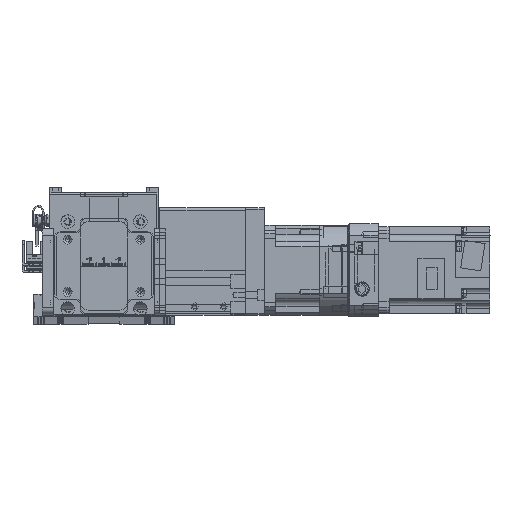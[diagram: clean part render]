
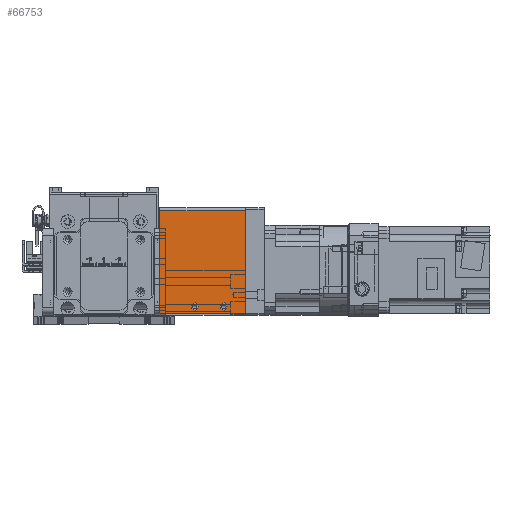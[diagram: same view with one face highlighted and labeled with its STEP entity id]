
A CAD part, top view. The second image highlights one B-rep face of the part: STEP entity #66753.
In plain terms, the highlighted planar face has unit normal (0, 0, 1) as drawn and (0, 0, -1) by its records, which use the part's own axes.
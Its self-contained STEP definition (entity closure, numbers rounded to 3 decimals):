
#3438=FACE_BOUND('',#10933,.T.);
#3439=FACE_BOUND('',#10934,.T.);
#6733=FACE_OUTER_BOUND('',#10932,.T.);
#10932=EDGE_LOOP('',(#59370,#59371,#59372,#59373,#59374,#59375));
#10933=EDGE_LOOP('',(#59376));
#10934=EDGE_LOOP('',(#59377));
#13957=CIRCLE('',#74006,2.5);
#13961=CIRCLE('',#74012,2.5);
#13970=CIRCLE('',#74027,1.);
#13972=CIRCLE('',#74031,1.);
#19698=LINE('',#116701,#25662);
#19712=LINE('',#116733,#25676);
#19715=LINE('',#116747,#25679);
#19718=LINE('',#116752,#25682);
#25662=VECTOR('',#92378,10.);
#25676=VECTOR('',#92402,10.);
#25679=VECTOR('',#92417,10.);
#25682=VECTOR('',#92422,10.);
#31903=VERTEX_POINT('',#116667);
#31907=VERTEX_POINT('',#116679);
#31915=VERTEX_POINT('',#116698);
#31916=VERTEX_POINT('',#116700);
#31928=VERTEX_POINT('',#116730);
#31929=VERTEX_POINT('',#116732);
#31932=VERTEX_POINT('',#116740);
#31934=VERTEX_POINT('',#116746);
#41153=EDGE_CURVE('',#31903,#31903,#13957,.T.);
#41159=EDGE_CURVE('',#31907,#31907,#13961,.T.);
#41168=EDGE_CURVE('',#31915,#31916,#19698,.T.);
#41184=EDGE_CURVE('',#31928,#31929,#19712,.T.);
#41188=EDGE_CURVE('',#31916,#31932,#13970,.T.);
#41191=EDGE_CURVE('',#31932,#31934,#19715,.T.);
#41194=EDGE_CURVE('',#31929,#31915,#19718,.T.);
#41195=EDGE_CURVE('',#31934,#31928,#13972,.T.);
#59370=ORIENTED_EDGE('',*,*,#41188,.F.);
#59371=ORIENTED_EDGE('',*,*,#41168,.F.);
#59372=ORIENTED_EDGE('',*,*,#41194,.F.);
#59373=ORIENTED_EDGE('',*,*,#41184,.F.);
#59374=ORIENTED_EDGE('',*,*,#41195,.F.);
#59375=ORIENTED_EDGE('',*,*,#41191,.F.);
#59376=ORIENTED_EDGE('',*,*,#41153,.T.);
#59377=ORIENTED_EDGE('',*,*,#41159,.T.);
#63331=PLANE('',#74030);
#66753=ADVANCED_FACE('',(#6733,#3438,#3439),#63331,.T.);
#74006=AXIS2_PLACEMENT_3D('',#116669,#92346,#92347);
#74012=AXIS2_PLACEMENT_3D('',#116681,#92360,#92361);
#74027=AXIS2_PLACEMENT_3D('',#116741,#92410,#92411);
#74030=AXIS2_PLACEMENT_3D('',#116751,#92420,#92421);
#74031=AXIS2_PLACEMENT_3D('',#116753,#92423,#92424);
#92346=DIRECTION('center_axis',(0.,0.,1.));
#92347=DIRECTION('ref_axis',(1.,0.,0.));
#92360=DIRECTION('center_axis',(0.,0.,1.));
#92361=DIRECTION('ref_axis',(1.,0.,0.));
#92378=DIRECTION('',(0.,-1.,0.));
#92402=DIRECTION('',(0.,1.,0.));
#92410=DIRECTION('center_axis',(0.,0.,1.));
#92411=DIRECTION('ref_axis',(-0.707,-0.707,0.));
#92417=DIRECTION('',(1.,0.,0.));
#92420=DIRECTION('center_axis',(0.,0.,-1.));
#92421=DIRECTION('ref_axis',(0.,1.,0.));
#92422=DIRECTION('',(-1.,0.,0.));
#92423=DIRECTION('center_axis',(0.,0.,1.));
#92424=DIRECTION('ref_axis',(0.707,-0.707,0.));
#116667=CARTESIAN_POINT('',(-17.,-31.5,-40.));
#116669=CARTESIAN_POINT('Origin',(-14.5,-31.5,-40.));
#116679=CARTESIAN_POINT('',(3.,-31.5,-40.));
#116681=CARTESIAN_POINT('Origin',(5.5,-31.5,-40.));
#116698=CARTESIAN_POINT('',(-29.5,34.5,-40.));
#116700=CARTESIAN_POINT('',(-29.5,-35.5,-40.));
#116701=CARTESIAN_POINT('',(-29.5,-36.5,-40.));
#116730=CARTESIAN_POINT('',(29.5,-35.5,-40.));
#116732=CARTESIAN_POINT('',(29.5,34.5,-40.));
#116733=CARTESIAN_POINT('',(29.5,-36.5,-40.));
#116740=CARTESIAN_POINT('',(-28.5,-36.5,-40.));
#116741=CARTESIAN_POINT('Origin',(-28.5,-35.5,-40.));
#116746=CARTESIAN_POINT('',(28.5,-36.5,-40.));
#116747=CARTESIAN_POINT('',(0.,-36.5,-40.));
#116751=CARTESIAN_POINT('Origin',(0.,-36.5,-40.));
#116752=CARTESIAN_POINT('',(0.,34.5,-40.));
#116753=CARTESIAN_POINT('Origin',(28.5,-35.5,-40.));
